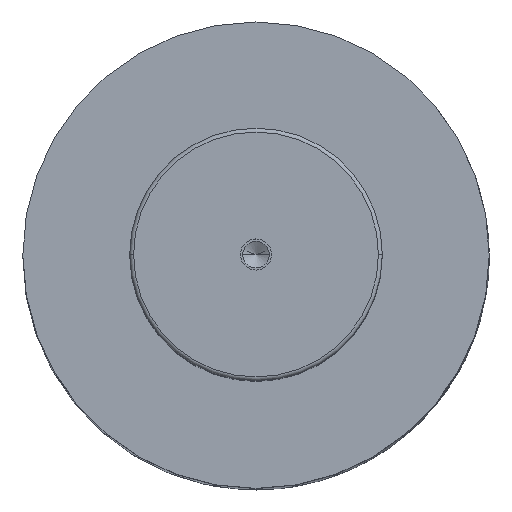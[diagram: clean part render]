
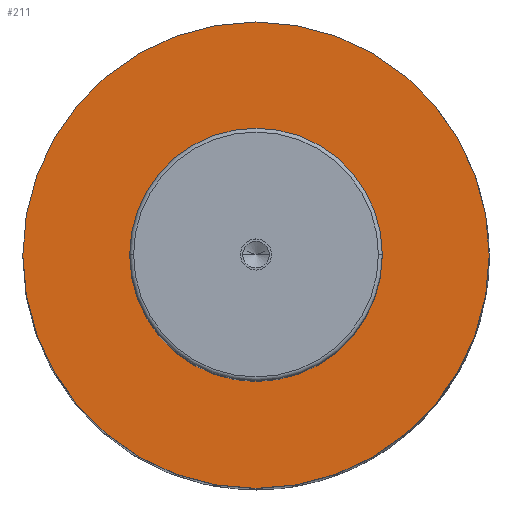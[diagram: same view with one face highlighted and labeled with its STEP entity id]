
A CAD part, top view. The second image highlights one B-rep face of the part: STEP entity #211.
In plain terms, the highlighted planar face has unit normal (0, 0, 1).
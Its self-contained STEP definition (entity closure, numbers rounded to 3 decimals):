
#109=PLANE('',#1266);
#138=FACE_BOUND('',#359,.T.);
#139=FACE_BOUND('',#360,.T.);
#211=ADVANCED_FACE('',(#138,#139),#109,.T.);
#359=EDGE_LOOP('',(#571,#572));
#360=EDGE_LOOP('',(#573,#574));
#451=CIRCLE('',#1260,32.5);
#452=CIRCLE('',#1262,32.5);
#453=CIRCLE('',#1264,60.);
#454=CIRCLE('',#1265,60.);
#571=ORIENTED_EDGE('',*,*,#970,.F.);
#572=ORIENTED_EDGE('',*,*,#971,.F.);
#573=ORIENTED_EDGE('',*,*,#969,.T.);
#574=ORIENTED_EDGE('',*,*,#967,.T.);
#856=VERTEX_POINT('',#1837);
#857=VERTEX_POINT('',#1839);
#858=VERTEX_POINT('',#1845);
#859=VERTEX_POINT('',#1846);
#967=EDGE_CURVE('',#857,#856,#451,.T.);
#969=EDGE_CURVE('',#856,#857,#452,.T.);
#970=EDGE_CURVE('',#858,#859,#453,.T.);
#971=EDGE_CURVE('',#859,#858,#454,.T.);
#1260=AXIS2_PLACEMENT_3D('',#1838,#1456,#1457);
#1262=AXIS2_PLACEMENT_3D('',#1842,#1461,#1462);
#1264=AXIS2_PLACEMENT_3D('',#1844,#1465,#1466);
#1265=AXIS2_PLACEMENT_3D('',#1847,#1467,#1468);
#1266=AXIS2_PLACEMENT_3D('',#1848,#1469,#1470);
#1456=DIRECTION('',(0.,0.,-1.));
#1457=DIRECTION('',(0.,1.,0.));
#1461=DIRECTION('',(0.,0.,-1.));
#1462=DIRECTION('',(0.,-1.,0.));
#1465=DIRECTION('',(0.,0.,-1.));
#1466=DIRECTION('',(0.,1.,0.));
#1467=DIRECTION('',(0.,0.,-1.));
#1468=DIRECTION('',(0.,-1.,0.));
#1469=DIRECTION('',(0.,0.,1.));
#1470=DIRECTION('',(0.,-1.,0.));
#1837=CARTESIAN_POINT('',(-32.5,0.,237.));
#1838=CARTESIAN_POINT('',(0.,0.,237.));
#1839=CARTESIAN_POINT('',(32.5,0.,237.));
#1842=CARTESIAN_POINT('',(0.,0.,237.));
#1844=CARTESIAN_POINT('',(0.,0.,237.));
#1845=CARTESIAN_POINT('',(60.,0.,237.));
#1846=CARTESIAN_POINT('',(-60.,0.,237.));
#1847=CARTESIAN_POINT('',(0.,0.,237.));
#1848=CARTESIAN_POINT('',(0.,0.,237.));
